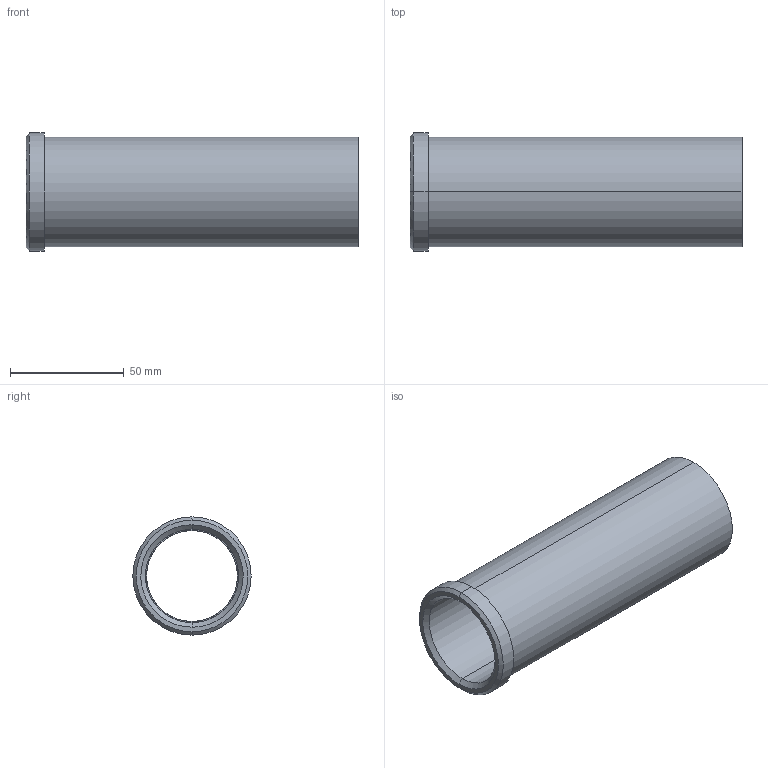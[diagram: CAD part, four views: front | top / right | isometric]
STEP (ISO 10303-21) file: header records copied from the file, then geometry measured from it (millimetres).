
FILE_DESCRIPTION(('CATIA V5 STEP Exchange'),'2;1');
FILE_NAME('C:\Users\Utente\Desktop\IO LAVORO\3D X SITO CF\X SITO\PLASTICA\353\353-40X146.stp','2021-05-13T18:28:33+00:00',('none'),('none'),'CATIA Version 5 Release 20 GA (IN-10)','CATIA V5 STEP AP203','none');
FILE_SCHEMA(('CONFIG_CONTROL_DESIGN'));
Length unit declared in the file: millimetre
Products named in the file (1): 353-40X146
Bounding box: 146 x 52 x 52 mm (x, y, z)
Volume: 78484.4 mm3; surface area: 42007 mm2
Topology: 1 solids, 1 shells, 18 faces, 58 edges, 44 vertices
Faces by surface type: cylinder 8, plane 4, cone 4, torus 2
Entity records: 840 total; most frequent: CARTESIAN_POINT 289, ORIENTED_EDGE 116, DIRECTION 82, EDGE_CURVE 58, AXIS2_PLACEMENT_3D 53, VERTEX_POINT 44, CIRCLE 34, EDGE_LOOP 22
